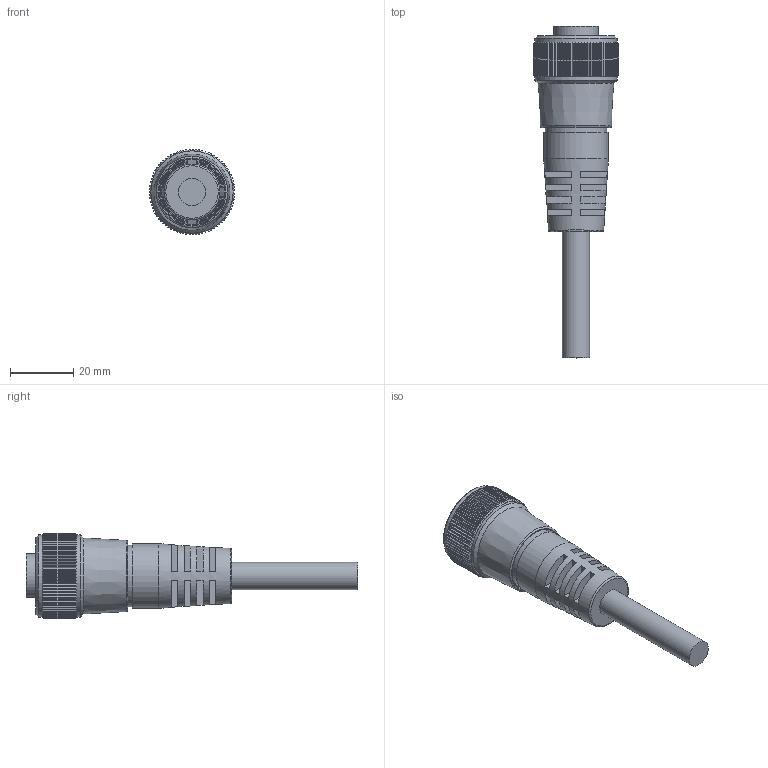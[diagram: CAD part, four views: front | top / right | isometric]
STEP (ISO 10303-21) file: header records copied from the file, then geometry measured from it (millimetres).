
FILE_DESCRIPTION (( 'STEP AP203' ), '1' );
FILE_NAME ('RKM-16AWG.step', '2018-07-17T18:10:14', ( '' ), ( '' ), 'SwSTEP 2.0', 'SolidWorks 2015', '' );
FILE_SCHEMA (( 'CONFIG_CONTROL_DESIGN' ));
Length unit declared in the file: millimetre
Products named in the file (1): RKM-16AWG
Bounding box: 27 x 105 x 27 mm (x, y, z)
Volume: 23443.7 mm3; surface area: 10165.6 mm2
Topology: 1 solids, 1 shells, 356 faces, 973 edges, 647 vertices
Faces by surface type: plane 247, cylinder 97, cone 8, torus 2, bspline 2
Full cylindrical faces by diameter (mm): 8.6 x1, 15.5 x1, 18 x1, 19 x1, 19.5 x1, 20.5 x1, 20.6 x1, 20.638 x1, 20.9 x2, 22.5 x1, 26 x2
Entity records: 11893 total; most frequent: CARTESIAN_POINT 3446, ORIENTED_EDGE 1878, DIRECTION 1517, EDGE_CURVE 939, VERTEX_POINT 638, AXIS2_PLACEMENT_3D 589, EDGE_LOOP 409, FACE_OUTER_BOUND 373
